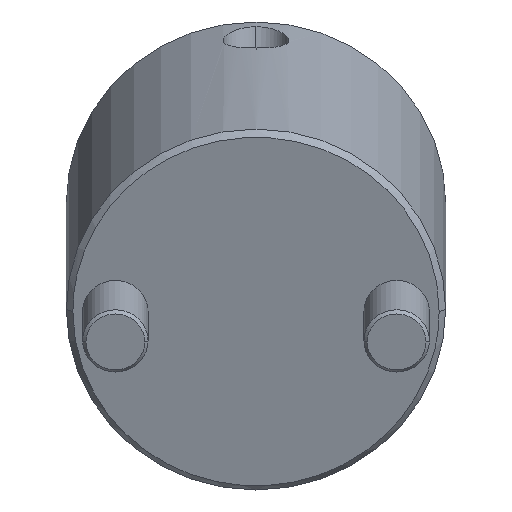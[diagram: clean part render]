
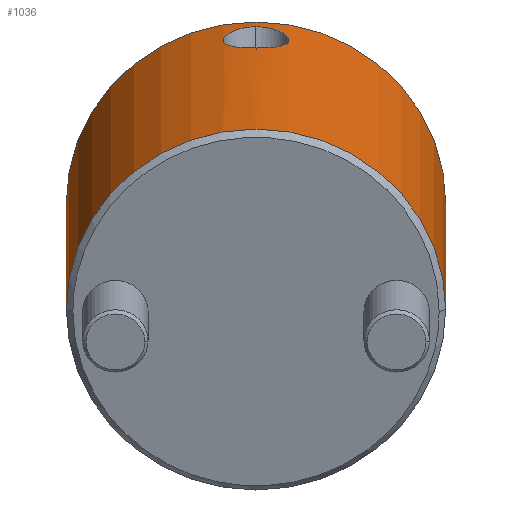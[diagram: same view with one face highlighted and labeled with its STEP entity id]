
A CAD part, front view. The second image highlights one B-rep face of the part: STEP entity #1036.
In plain terms, the highlighted cylindrical face has radius 29 mm (diameter 58 mm), a partial arc.
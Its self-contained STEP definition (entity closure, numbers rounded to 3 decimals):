
#772=CARTESIAN_POINT('Vertex',(0.,29.,1.)) ;
#775=CARTESIAN_POINT('Axis2P3D Location',(0.,0.,1.)) ;
#779=CARTESIAN_POINT('Vertex',(0.,-29.,1.)) ;
#931=CARTESIAN_POINT('Axis2P3D Location',(0.,0.,-2.75)) ;
#936=CARTESIAN_POINT('Line Origine',(0.,29.,-2.75)) ;
#940=CARTESIAN_POINT('Vertex',(0.,29.,54.)) ;
#943=CARTESIAN_POINT('Axis2P3D Location',(0.,0.,54.)) ;
#947=CARTESIAN_POINT('Vertex',(0.,-29.,54.)) ;
#950=CARTESIAN_POINT('Line Origine',(0.,-29.,-2.75)) ;
#962=CARTESIAN_POINT('Control Point',(29.,0.,51.652)) ;
#963=CARTESIAN_POINT('Control Point',(29.,0.413,51.652)) ;
#964=CARTESIAN_POINT('Control Point',(28.993,0.825,51.605)) ;
#965=CARTESIAN_POINT('Control Point',(28.978,1.237,51.509)) ;
#966=CARTESIAN_POINT('Control Point',(28.94,1.937,51.261)) ;
#967=CARTESIAN_POINT('Control Point',(28.886,2.588,50.874)) ;
#968=CARTESIAN_POINT('Control Point',(28.861,2.857,50.684)) ;
#969=CARTESIAN_POINT('Control Point',(28.797,3.455,50.181)) ;
#970=CARTESIAN_POINT('Control Point',(28.73,3.965,49.559)) ;
#971=CARTESIAN_POINT('Control Point',(28.693,4.218,49.174)) ;
#972=CARTESIAN_POINT('Control Point',(28.643,4.54,48.551)) ;
#973=CARTESIAN_POINT('Control Point',(28.607,4.762,47.896)) ;
#974=CARTESIAN_POINT('Control Point',(28.596,4.824,47.674)) ;
#975=CARTESIAN_POINT('Control Point',(28.574,4.952,47.114)) ;
#976=CARTESIAN_POINT('Control Point',(28.564,5.009,46.539)) ;
#977=CARTESIAN_POINT('Control Point',(28.563,5.016,46.194)) ;
#978=CARTESIAN_POINT('Control Point',(28.57,4.976,45.511)) ;
#979=CARTESIAN_POINT('Control Point',(28.595,4.833,44.852)) ;
#980=CARTESIAN_POINT('Control Point',(28.611,4.737,44.534)) ;
#981=CARTESIAN_POINT('Control Point',(28.657,4.455,43.814)) ;
#982=CARTESIAN_POINT('Control Point',(28.718,4.046,43.164)) ;
#983=CARTESIAN_POINT('Control Point',(28.756,3.772,42.82)) ;
#984=CARTESIAN_POINT('Control Point',(28.854,2.985,42.027)) ;
#985=CARTESIAN_POINT('Control Point',(28.941,2.003,41.48)) ;
#986=CARTESIAN_POINT('Control Point',(28.98,1.347,41.25)) ;
#987=CARTESIAN_POINT('Control Point',(29.,0.678,41.137)) ;
#988=CARTESIAN_POINT('Control Point',(29.,0.,41.137)) ;
#989=CARTESIAN_POINT('Vertex',(29.,0.,51.652)) ;
#991=CARTESIAN_POINT('Vertex',(29.,0.,41.137)) ;
#995=CARTESIAN_POINT('Control Point',(29.,0.,41.137)) ;
#996=CARTESIAN_POINT('Control Point',(29.,-0.219,41.137)) ;
#997=CARTESIAN_POINT('Control Point',(28.998,-0.436,41.149)) ;
#998=CARTESIAN_POINT('Control Point',(28.994,-0.652,41.172)) ;
#999=CARTESIAN_POINT('Control Point',(28.979,-1.19,41.261)) ;
#1000=CARTESIAN_POINT('Control Point',(28.952,-1.712,41.421)) ;
#1001=CARTESIAN_POINT('Control Point',(28.932,-2.014,41.542)) ;
#1002=CARTESIAN_POINT('Control Point',(28.879,-2.697,41.883)) ;
#1003=CARTESIAN_POINT('Control Point',(28.814,-3.304,42.348)) ;
#1004=CARTESIAN_POINT('Control Point',(28.775,-3.622,42.654)) ;
#1005=CARTESIAN_POINT('Control Point',(28.718,-4.042,43.158)) ;
#1006=CARTESIAN_POINT('Control Point',(28.669,-4.373,43.723)) ;
#1007=CARTESIAN_POINT('Control Point',(28.653,-4.474,43.919)) ;
#1008=CARTESIAN_POINT('Control Point',(28.624,-4.655,44.321)) ;
#1009=CARTESIAN_POINT('Control Point',(28.601,-4.793,44.742)) ;
#1010=CARTESIAN_POINT('Control Point',(28.592,-4.851,44.956)) ;
#1011=CARTESIAN_POINT('Control Point',(28.572,-4.967,45.504)) ;
#1012=CARTESIAN_POINT('Control Point',(28.563,-5.013,46.071)) ;
#1013=CARTESIAN_POINT('Control Point',(28.563,-5.014,46.416)) ;
#1014=CARTESIAN_POINT('Control Point',(28.571,-4.969,46.991)) ;
#1015=CARTESIAN_POINT('Control Point',(28.591,-4.854,47.554)) ;
#1016=CARTESIAN_POINT('Control Point',(28.601,-4.796,47.778)) ;
#1017=CARTESIAN_POINT('Control Point',(28.624,-4.657,48.219)) ;
#1018=CARTESIAN_POINT('Control Point',(28.653,-4.474,48.646)) ;
#1019=CARTESIAN_POINT('Control Point',(28.669,-4.371,48.855)) ;
#1020=CARTESIAN_POINT('Control Point',(28.703,-4.146,49.259)) ;
#1021=CARTESIAN_POINT('Control Point',(28.74,-3.881,49.636)) ;
#1022=CARTESIAN_POINT('Control Point',(28.758,-3.741,49.815)) ;
#1023=CARTESIAN_POINT('Control Point',(28.815,-3.296,50.326)) ;
#1024=CARTESIAN_POINT('Control Point',(28.869,-2.784,50.754)) ;
#1025=CARTESIAN_POINT('Control Point',(28.903,-2.418,50.997)) ;
#1026=CARTESIAN_POINT('Control Point',(28.954,-1.729,51.353)) ;
#1027=CARTESIAN_POINT('Control Point',(28.986,-0.994,51.56)) ;
#1028=CARTESIAN_POINT('Control Point',(28.995,-0.662,51.622)) ;
#1029=CARTESIAN_POINT('Control Point',(29.,-0.331,51.652)) ;
#1030=CARTESIAN_POINT('Control Point',(29.,0.,51.652)) ;
#776=DIRECTION('Axis2P3D Direction',(0.,0.,1.)) ;
#932=DIRECTION('Axis2P3D Direction',(0.,-0.,1.)) ;
#933=DIRECTION('Axis2P3D XDirection',(0.,-1.,0.)) ;
#937=DIRECTION('Vector Direction',(0.,0.,1.)) ;
#944=DIRECTION('Axis2P3D Direction',(0.,-0.,1.)) ;
#951=DIRECTION('Vector Direction',(0.,0.,1.)) ;
#777=AXIS2_PLACEMENT_3D('Circle Axis2P3D',#775,#776,$) ;
#934=AXIS2_PLACEMENT_3D('Cylinder Axis2P3D',#931,#932,#933) ;
#945=AXIS2_PLACEMENT_3D('Circle Axis2P3D',#943,#944,$) ;
#956=ORIENTED_EDGE('',*,*,#942,.F.) ;
#957=ORIENTED_EDGE('',*,*,#949,.T.) ;
#958=ORIENTED_EDGE('',*,*,#954,.T.) ;
#959=ORIENTED_EDGE('',*,*,#781,.F.) ;
#1033=ORIENTED_EDGE('',*,*,#993,.T.) ;
#1034=ORIENTED_EDGE('',*,*,#1031,.T.) ;
#1035=FACE_BOUND('',#1032,.T.) ;
#938=VECTOR('Line Direction',#937,1.) ;
#952=VECTOR('Line Direction',#951,1.) ;
#1036=ADVANCED_FACE('MANIFOLD_SOLID_BREP #1144',(#960,#1035),#935,.T.) ;
#961=B_SPLINE_CURVE_WITH_KNOTS('',5,(#962,#963,#964,#965,#966,#967,#968,#969,#970,#971,#972,#973,#974,#975,#976,#977,#978,#979,#980,#981,#982,#983,#984,#985,#986,#987,#988),.UNSPECIFIED.,.F.,.U.,(6,3,3,3,3,3,3,3,6),(0.,3.077,5.417,8.587,10.186,12.541,14.89,18.015,22.852),.UNSPECIFIED.) ;
#994=B_SPLINE_CURVE_WITH_KNOTS('',5,(#995,#996,#997,#998,#999,#1000,#1001,#1002,#1003,#1004,#1005,#1006,#1007,#1008,#1009,#1010,#1011,#1012,#1013,#1014,#1015,#1016,#1017,#1018,#1019,#1020,#1021,#1022,#1023,#1024,#1025,#1026,#1027,#1028,#1029,#1030),.UNSPECIFIED.,.F.,.U.,(6,3,3,3,3,3,3,3,3,3,3,6),(0.,1.559,3.899,7.014,8.581,10.147,12.5,14.096,15.686,17.262,20.379,22.847),.UNSPECIFIED.) ;
#778=CIRCLE('generated circle',#777,29.) ;
#946=CIRCLE('generated circle',#945,29.) ;
#935=CYLINDRICAL_SURFACE('generated cylinder',#934,29.) ;
#781=EDGE_CURVE('',#773,#780,#778,.F.) ;
#942=EDGE_CURVE('',#941,#773,#939,.F.) ;
#949=EDGE_CURVE('',#941,#948,#946,.F.) ;
#954=EDGE_CURVE('',#948,#780,#953,.F.) ;
#993=EDGE_CURVE('',#990,#992,#961,.T.) ;
#1031=EDGE_CURVE('',#992,#990,#994,.T.) ;
#955=EDGE_LOOP('',(#956,#957,#958,#959)) ;
#1032=EDGE_LOOP('',(#1033,#1034)) ;
#960=FACE_OUTER_BOUND('',#955,.T.) ;
#939=LINE('Line',#936,#938) ;
#953=LINE('Line',#950,#952) ;
#773=VERTEX_POINT('',#772) ;
#780=VERTEX_POINT('',#779) ;
#941=VERTEX_POINT('',#940) ;
#948=VERTEX_POINT('',#947) ;
#990=VERTEX_POINT('',#989) ;
#992=VERTEX_POINT('',#991) ;
